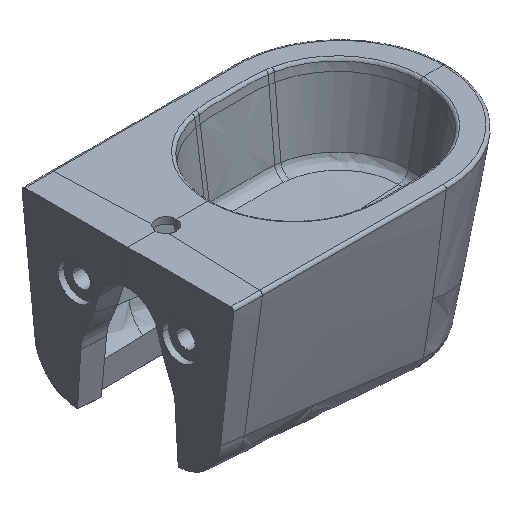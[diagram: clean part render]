
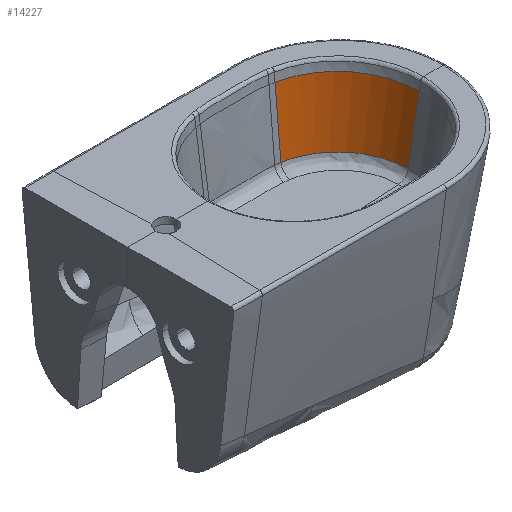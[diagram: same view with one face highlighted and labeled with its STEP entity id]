
A CAD part, isometric view. The second image highlights one B-rep face of the part: STEP entity #14227.
In plain terms, the highlighted free-form (B-spline) face has degree [5, 1] with [12, 2] control points.
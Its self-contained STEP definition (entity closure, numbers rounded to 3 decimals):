
#14081=CARTESIAN_POINT('Control Point',(384.634,135.303,-17.76)) ;
#14082=CARTESIAN_POINT('Control Point',(382.799,130.182,-53.593)) ;
#14083=CARTESIAN_POINT('Control Point',(380.964,125.06,-89.427)) ;
#14084=CARTESIAN_POINT('Control Point',(379.128,119.936,-125.262)) ;
#14085=CARTESIAN_POINT('Vertex',(384.634,135.303,-17.76)) ;
#14087=CARTESIAN_POINT('Vertex',(379.128,119.936,-125.262)) ;
#14110=CARTESIAN_POINT('Control Point',(360.511,139.492,-4.977)) ;
#14111=CARTESIAN_POINT('Control Point',(352.105,116.079,-169.226)) ;
#14112=CARTESIAN_POINT('Control Point',(372.32,139.492,-4.977)) ;
#14113=CARTESIAN_POINT('Control Point',(361.976,116.215,-169.329)) ;
#14114=CARTESIAN_POINT('Control Point',(384.483,138.162,-4.977)) ;
#14115=CARTESIAN_POINT('Control Point',(372.174,115.252,-169.429)) ;
#14116=CARTESIAN_POINT('Control Point',(396.153,135.344,-4.977)) ;
#14117=CARTESIAN_POINT('Control Point',(381.993,113.038,-169.518)) ;
#14118=CARTESIAN_POINT('Control Point',(420.378,126.859,-4.977)) ;
#14119=CARTESIAN_POINT('Control Point',(402.425,106.218,-169.694)) ;
#14120=CARTESIAN_POINT('Control Point',(442.974,112.077,-4.977)) ;
#14121=CARTESIAN_POINT('Control Point',(421.589,94.048,-169.844)) ;
#14122=CARTESIAN_POINT('Control Point',(453.926,102.382,-4.977)) ;
#14123=CARTESIAN_POINT('Control Point',(430.904,86.002,-169.912)) ;
#14124=CARTESIAN_POINT('Control Point',(474.415,79.187,-4.977)) ;
#14125=CARTESIAN_POINT('Control Point',(448.363,66.656,-170.037)) ;
#14126=CARTESIAN_POINT('Control Point',(488.269,50.289,-4.977)) ;
#14127=CARTESIAN_POINT('Control Point',(460.211,42.382,-170.116)) ;
#14128=CARTESIAN_POINT('Control Point',(493.226,33.775,-4.977)) ;
#14129=CARTESIAN_POINT('Control Point',(464.456,28.475,-170.144)) ;
#14130=CARTESIAN_POINT('Control Point',(495.703,16.888,-4.977)) ;
#14131=CARTESIAN_POINT('Control Point',(466.577,14.237,-170.157)) ;
#14132=CARTESIAN_POINT('Control Point',(495.703,0.,-4.977)) ;
#14133=CARTESIAN_POINT('Control Point',(466.578,0.,-170.157)) ;
#14135=CARTESIAN_POINT('Control Point',(474.975,0.,-122.532)) ;
#14136=CARTESIAN_POINT('Control Point',(474.975,1.099,-122.532)) ;
#14137=CARTESIAN_POINT('Control Point',(474.963,2.198,-122.532)) ;
#14138=CARTESIAN_POINT('Control Point',(474.939,3.296,-122.533)) ;
#14139=CARTESIAN_POINT('Control Point',(474.76,8.783,-122.537)) ;
#14140=CARTESIAN_POINT('Control Point',(474.281,14.258,-122.549)) ;
#14141=CARTESIAN_POINT('Control Point',(473.706,18.621,-122.563)) ;
#14142=CARTESIAN_POINT('Control Point',(471.985,28.373,-122.606)) ;
#14143=CARTESIAN_POINT('Control Point',(469.313,37.906,-122.673)) ;
#14144=CARTESIAN_POINT('Control Point',(467.54,43.106,-122.718)) ;
#14145=CARTESIAN_POINT('Control Point',(464.046,51.768,-122.807)) ;
#14146=CARTESIAN_POINT('Control Point',(459.788,60.003,-122.917)) ;
#14147=CARTESIAN_POINT('Control Point',(457.901,63.329,-122.965)) ;
#14148=CARTESIAN_POINT('Control Point',(454.728,68.449,-123.048)) ;
#14149=CARTESIAN_POINT('Control Point',(451.281,73.32,-123.139)) ;
#14150=CARTESIAN_POINT('Control Point',(449.983,75.068,-123.173)) ;
#14151=CARTESIAN_POINT('Control Point',(447.325,78.49,-123.244)) ;
#14152=CARTESIAN_POINT('Control Point',(444.527,81.778,-123.319)) ;
#14153=CARTESIAN_POINT('Control Point',(443.089,83.394,-123.358)) ;
#14154=CARTESIAN_POINT('Control Point',(439.004,87.781,-123.468)) ;
#14155=CARTESIAN_POINT('Control Point',(434.663,91.899,-123.588)) ;
#14156=CARTESIAN_POINT('Control Point',(431.802,94.404,-123.667)) ;
#14157=CARTESIAN_POINT('Control Point',(425.902,99.17,-123.832)) ;
#14158=CARTESIAN_POINT('Control Point',(419.671,103.433,-124.011)) ;
#14159=CARTESIAN_POINT('Control Point',(416.479,105.436,-124.103)) ;
#14160=CARTESIAN_POINT('Control Point',(412.273,107.844,-124.227)) ;
#14161=CARTESIAN_POINT('Control Point',(407.992,110.015,-124.355)) ;
#14162=CARTESIAN_POINT('Control Point',(407.027,110.49,-124.384)) ;
#14163=CARTESIAN_POINT('Control Point',(405.541,111.201,-124.428)) ;
#14164=CARTESIAN_POINT('Control Point',(404.048,111.884,-124.474)) ;
#14165=CARTESIAN_POINT('Control Point',(403.566,112.101,-124.488)) ;
#14166=CARTESIAN_POINT('Control Point',(402.639,112.512,-124.516)) ;
#14167=CARTESIAN_POINT('Control Point',(401.709,112.912,-124.545)) ;
#14168=CARTESIAN_POINT('Control Point',(401.224,113.118,-124.56)) ;
#14169=CARTESIAN_POINT('Control Point',(396.611,115.042,-124.701)) ;
#14170=CARTESIAN_POINT('Control Point',(391.929,116.705,-124.847)) ;
#14171=CARTESIAN_POINT('Control Point',(387.717,117.983,-124.981)) ;
#14172=CARTESIAN_POINT('Control Point',(383.445,119.062,-125.12)) ;
#14173=CARTESIAN_POINT('Control Point',(379.128,119.935,-125.262)) ;
#14174=CARTESIAN_POINT('Vertex',(474.975,0.,-122.532)) ;
#14178=CARTESIAN_POINT('Control Point',(493.449,0.,-17.76)) ;
#14179=CARTESIAN_POINT('Control Point',(474.975,0.,-122.532)) ;
#14180=CARTESIAN_POINT('Vertex',(493.449,0.,-17.76)) ;
#14184=CARTESIAN_POINT('Control Point',(493.449,0.,-17.76)) ;
#14185=CARTESIAN_POINT('Control Point',(493.449,6.634,-17.76)) ;
#14186=CARTESIAN_POINT('Control Point',(493.062,13.268,-17.76)) ;
#14187=CARTESIAN_POINT('Control Point',(492.284,19.961,-17.76)) ;
#14188=CARTESIAN_POINT('Control Point',(489.901,33.308,-17.76)) ;
#14189=CARTESIAN_POINT('Control Point',(485.944,46.271,-17.76)) ;
#14190=CARTESIAN_POINT('Control Point',(483.587,52.579,-17.76)) ;
#14191=CARTESIAN_POINT('Control Point',(480.217,60.208,-17.76)) ;
#14192=CARTESIAN_POINT('Control Point',(476.308,67.531,-17.76)) ;
#14193=CARTESIAN_POINT('Control Point',(475.46,69.066,-17.76)) ;
#14194=CARTESIAN_POINT('Control Point',(473.686,72.152,-17.76)) ;
#14195=CARTESIAN_POINT('Control Point',(471.818,75.174,-17.76)) ;
#14196=CARTESIAN_POINT('Control Point',(470.874,76.644,-17.76)) ;
#14197=CARTESIAN_POINT('Control Point',(467.39,81.901,-17.76)) ;
#14198=CARTESIAN_POINT('Control Point',(463.623,86.935,-17.76)) ;
#14199=CARTESIAN_POINT('Control Point',(460.707,90.51,-17.76)) ;
#14200=CARTESIAN_POINT('Control Point',(454.571,97.413,-17.76)) ;
#14201=CARTESIAN_POINT('Control Point',(447.873,103.769,-17.76)) ;
#14202=CARTESIAN_POINT('Control Point',(444.393,106.798,-17.76)) ;
#14203=CARTESIAN_POINT('Control Point',(438.989,111.111,-17.76)) ;
#14204=CARTESIAN_POINT('Control Point',(433.33,115.058,-17.76)) ;
#14205=CARTESIAN_POINT('Control Point',(431.424,116.326,-17.76)) ;
#14206=CARTESIAN_POINT('Control Point',(427.579,118.768,-17.76)) ;
#14207=CARTESIAN_POINT('Control Point',(423.642,121.038,-17.76)) ;
#14208=CARTESIAN_POINT('Control Point',(421.643,122.135,-17.76)) ;
#14209=CARTESIAN_POINT('Control Point',(418.609,123.714,-17.76)) ;
#14210=CARTESIAN_POINT('Control Point',(415.536,125.188,-17.76)) ;
#14211=CARTESIAN_POINT('Control Point',(414.498,125.674,-17.76)) ;
#14212=CARTESIAN_POINT('Control Point',(412.387,126.631,-17.76)) ;
#14213=CARTESIAN_POINT('Control Point',(410.258,127.54,-17.76)) ;
#14214=CARTESIAN_POINT('Control Point',(409.201,127.978,-17.76)) ;
#14215=CARTESIAN_POINT('Control Point',(403.84,130.131,-17.76)) ;
#14216=CARTESIAN_POINT('Control Point',(398.356,131.99,-17.76)) ;
#14217=CARTESIAN_POINT('Control Point',(393.847,133.299,-17.76)) ;
#14218=CARTESIAN_POINT('Control Point',(389.264,134.405,-17.76)) ;
#14219=CARTESIAN_POINT('Control Point',(384.634,135.303,-17.76)) ;
#14222=ORIENTED_EDGE('',*,*,#14176,.T.) ;
#14223=ORIENTED_EDGE('',*,*,#14182,.F.) ;
#14224=ORIENTED_EDGE('',*,*,#14220,.T.) ;
#14225=ORIENTED_EDGE('',*,*,#14089,.T.) ;
#14227=ADVANCED_FACE('Raccordo su spigolo.3',(#14226),#14109,.F.) ;
#14080=B_SPLINE_CURVE_WITH_KNOTS('',3,(#14081,#14082,#14083,#14084),.UNSPECIFIED.,.F.,.U.,(4,4),(12.37,124.605),.UNSPECIFIED.) ;
#14134=B_SPLINE_CURVE_WITH_KNOTS('',5,(#14135,#14136,#14137,#14138,#14139,#14140,#14141,#14142,#14143,#14144,#14145,#14146,#14147,#14148,#14149,#14150,#14151,#14152,#14153,#14154,#14155,#14156,#14157,#14158,#14159,#14160,#14161,#14162,#14163,#14164,#14165,#14166,#14167,#14168,#14169,#14170,#14171,#14172,#14173),.UNSPECIFIED.,.F.,.U.,(6,3,3,3,3,3,3,3,3,3,3,3,6),(0.,7.525,37.601,75.201,101.758,117.227,132.696,159.913,187.129,195.006,199.234,203.461,236.301),.UNSPECIFIED.) ;
#14177=B_SPLINE_CURVE_WITH_KNOTS('',1,(#14178,#14179),.UNSPECIFIED.,.F.,.U.,(2,2),(13.42,123.419),.UNSPECIFIED.) ;
#14183=B_SPLINE_CURVE_WITH_KNOTS('',5,(#14184,#14185,#14186,#14187,#14188,#14189,#14190,#14191,#14192,#14193,#14194,#14195,#14196,#14197,#14198,#14199,#14200,#14201,#14202,#14203,#14204,#14205,#14206,#14207,#14208,#14209,#14210,#14211,#14212,#14213,#14214,#14215,#14216,#14217,#14218,#14219),.UNSPECIFIED.,.F.,.U.,(6,3,3,3,3,3,3,3,3,3,3,6),(0.,44.12,88.24,99.584,110.928,141.961,172.993,188.627,204.261,211.917,219.574,251.507),.UNSPECIFIED.) ;
#14109=B_SPLINE_SURFACE_WITH_KNOTS('',5,1,((#14110,#14111),(#14112,#14113),(#14114,#14115),(#14116,#14117),(#14118,#14119),(#14120,#14121),(#14122,#14123),(#14124,#14125),(#14126,#14127),(#14128,#14129),(#14130,#14131),(#14132,#14133)),.UNSPECIFIED.,.F.,.F.,.U.,(6,3,3,6),(2,2),(0.,56.846,124.965,203.558),(0.,173.42),.UNSPECIFIED.) ;
#14089=EDGE_CURVE('',#14086,#14088,#14080,.T.) ;
#14176=EDGE_CURVE('',#14088,#14175,#14134,.F.) ;
#14182=EDGE_CURVE('',#14181,#14175,#14177,.T.) ;
#14220=EDGE_CURVE('',#14181,#14086,#14183,.T.) ;
#14221=EDGE_LOOP('',(#14222,#14223,#14224,#14225)) ;
#14226=FACE_OUTER_BOUND('',#14221,.T.) ;
#14086=VERTEX_POINT('',#14085) ;
#14088=VERTEX_POINT('',#14087) ;
#14175=VERTEX_POINT('',#14174) ;
#14181=VERTEX_POINT('',#14180) ;
